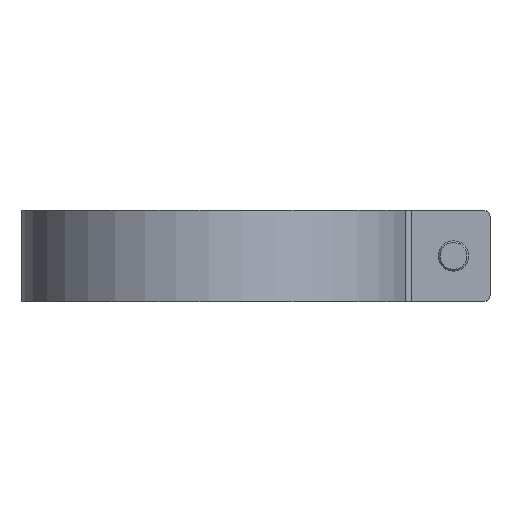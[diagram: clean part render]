
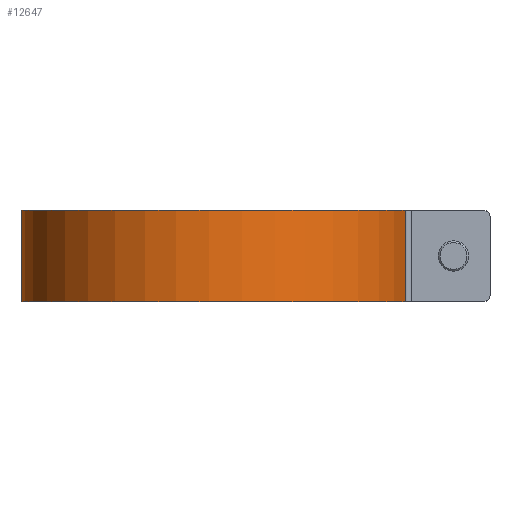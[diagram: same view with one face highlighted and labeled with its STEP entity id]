
A CAD part, front view. The second image highlights one B-rep face of the part: STEP entity #12647.
In plain terms, the highlighted cylindrical face has radius 32 mm (diameter 64 mm), a partial arc.
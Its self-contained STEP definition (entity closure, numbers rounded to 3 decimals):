
#36 = AXIS2_PLACEMENT_3D ( 'NONE', #12649, #4199, #14044 ) ;
#905 = CARTESIAN_POINT ( 'NONE',  ( 31.045, -7.758, 15. ) ) ;
#2202 = CARTESIAN_POINT ( 'NONE',  ( 31.045, -7.758, 0. ) ) ;
#3645 = FACE_OUTER_BOUND ( 'NONE', #6774, .T. ) ;
#4199 = DIRECTION ( 'NONE',  ( 0., 0., 1. ) ) ;
#5824 = CARTESIAN_POINT ( 'NONE',  ( 31.045, -7.758, 15. ) ) ;
#6051 = EDGE_CURVE ( 'NONE', #10729, #7036, #7789, .T. ) ;
#6236 = CARTESIAN_POINT ( 'NONE',  ( 0., 0., 15. ) ) ;
#6619 = DIRECTION ( 'NONE',  ( 0., 0., 1. ) ) ;
#6774 = EDGE_LOOP ( 'NONE', ( #18384, #13980, #6821, #12505 ) ) ;
#6821 = ORIENTED_EDGE ( 'NONE', *, *, #16499, .T. ) ;
#7036 = VERTEX_POINT ( 'NONE', #5824 ) ;
#7643 = DIRECTION ( 'NONE',  ( 1., 0., 0. ) ) ;
#7775 = CARTESIAN_POINT ( 'NONE',  ( -32., 0., 15. ) ) ;
#7789 = CIRCLE ( 'NONE', #14643, 32. ) ;
#8085 = LINE ( 'NONE', #7775, #15580 ) ;
#10062 = CARTESIAN_POINT ( 'NONE',  ( 0., 0., 15. ) ) ;
#10729 = VERTEX_POINT ( 'NONE', #10738 ) ;
#10738 = CARTESIAN_POINT ( 'NONE',  ( -32., 0., 15. ) ) ;
#11258 = EDGE_CURVE ( 'NONE', #10729, #14984, #8085, .T. ) ;
#12505 = ORIENTED_EDGE ( 'NONE', *, *, #12921, .T. ) ;
#12647 = ADVANCED_FACE ( 'NONE', ( #3645 ), #14437, .T. ) ;
#12649 = CARTESIAN_POINT ( 'NONE',  ( 0., 0., 0. ) ) ;
#12921 = EDGE_CURVE ( 'NONE', #13391, #7036, #17102, .T. ) ;
#13357 = DIRECTION ( 'NONE',  ( 0., 0., -1. ) ) ;
#13391 = VERTEX_POINT ( 'NONE', #2202 ) ;
#13629 = CIRCLE ( 'NONE', #36, 32. ) ;
#13980 = ORIENTED_EDGE ( 'NONE', *, *, #11258, .T. ) ;
#14044 = DIRECTION ( 'NONE',  ( 1., 0., 0. ) ) ;
#14207 = VECTOR ( 'NONE', #6619, 1000. ) ;
#14426 = DIRECTION ( 'NONE',  ( 0., 0., -1. ) ) ;
#14437 = CYLINDRICAL_SURFACE ( 'NONE', #17401, 32. ) ;
#14643 = AXIS2_PLACEMENT_3D ( 'NONE', #6236, #16104, #7643 ) ;
#14984 = VERTEX_POINT ( 'NONE', #16093 ) ;
#15580 = VECTOR ( 'NONE', #13357, 1000. ) ;
#15787 = DIRECTION ( 'NONE',  ( -1., 0., 0. ) ) ;
#16093 = CARTESIAN_POINT ( 'NONE',  ( -32., 0., 0. ) ) ;
#16104 = DIRECTION ( 'NONE',  ( 0., 0., 1. ) ) ;
#16499 = EDGE_CURVE ( 'NONE', #14984, #13391, #13629, .T. ) ;
#17102 = LINE ( 'NONE', #905, #14207 ) ;
#17401 = AXIS2_PLACEMENT_3D ( 'NONE', #10062, #14426, #15787 ) ;
#18384 = ORIENTED_EDGE ( 'NONE', *, *, #6051, .F. ) ;
